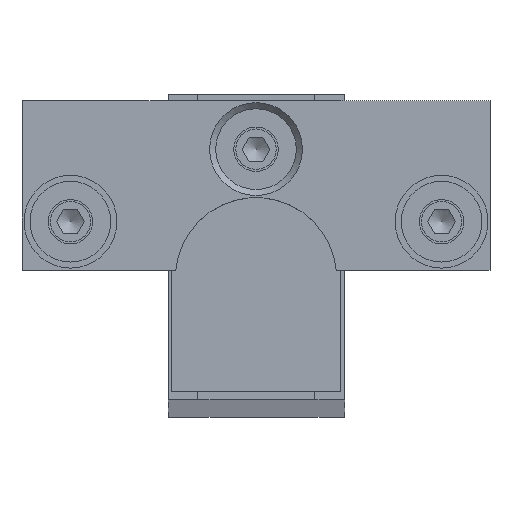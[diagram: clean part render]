
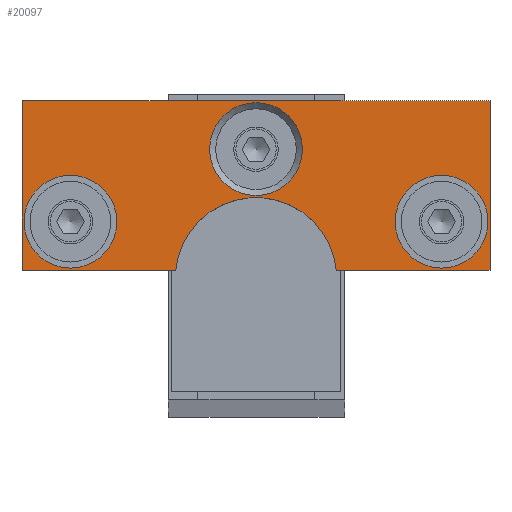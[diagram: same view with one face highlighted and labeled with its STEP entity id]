
A CAD part, top view. The second image highlights one B-rep face of the part: STEP entity #20097.
In plain terms, the highlighted planar face has unit normal (0, 0, 1).
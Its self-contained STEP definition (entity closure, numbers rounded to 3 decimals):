
#279=FACE_BOUND('',#2651,.T.);
#280=FACE_BOUND('',#2652,.T.);
#281=FACE_BOUND('',#2653,.T.);
#571=PLANE('',#21704);
#1470=FACE_OUTER_BOUND('',#2650,.T.);
#2650=EDGE_LOOP('',(#13902,#13903,#13904,#13905,#13906,#13907));
#2651=EDGE_LOOP('',(#13908));
#2652=EDGE_LOOP('',(#13909));
#2653=EDGE_LOOP('',(#13910));
#4167=LINE('',#34144,#4975);
#4168=LINE('',#34146,#4976);
#4169=LINE('',#34148,#4977);
#4170=LINE('',#34152,#4978);
#4171=LINE('',#34153,#4979);
#4975=VECTOR('',#25478,10.);
#4976=VECTOR('',#25479,10.);
#4977=VECTOR('',#25480,10.);
#4978=VECTOR('',#25483,10.);
#4979=VECTOR('',#25484,10.);
#5951=CIRCLE('',#21702,5.75);
#5953=CIRCLE('',#21705,10.);
#5954=CIRCLE('',#21706,5.75);
#5955=CIRCLE('',#21707,5.75);
#7915=VERTEX_POINT('',#34136);
#7917=VERTEX_POINT('',#34142);
#7918=VERTEX_POINT('',#34143);
#7919=VERTEX_POINT('',#34145);
#7920=VERTEX_POINT('',#34147);
#7921=VERTEX_POINT('',#34149);
#7922=VERTEX_POINT('',#34151);
#7923=VERTEX_POINT('',#34154);
#7924=VERTEX_POINT('',#34156);
#10286=EDGE_CURVE('',#7915,#7915,#5951,.T.);
#10289=EDGE_CURVE('',#7917,#7918,#4167,.T.);
#10290=EDGE_CURVE('',#7918,#7919,#4168,.T.);
#10291=EDGE_CURVE('',#7919,#7920,#4169,.T.);
#10292=EDGE_CURVE('',#7920,#7921,#5953,.T.);
#10293=EDGE_CURVE('',#7921,#7922,#4170,.T.);
#10294=EDGE_CURVE('',#7922,#7917,#4171,.T.);
#10295=EDGE_CURVE('',#7923,#7923,#5954,.T.);
#10296=EDGE_CURVE('',#7924,#7924,#5955,.T.);
#13902=ORIENTED_EDGE('',*,*,#10289,.T.);
#13903=ORIENTED_EDGE('',*,*,#10290,.T.);
#13904=ORIENTED_EDGE('',*,*,#10291,.T.);
#13905=ORIENTED_EDGE('',*,*,#10292,.T.);
#13906=ORIENTED_EDGE('',*,*,#10293,.T.);
#13907=ORIENTED_EDGE('',*,*,#10294,.T.);
#13908=ORIENTED_EDGE('',*,*,#10295,.F.);
#13909=ORIENTED_EDGE('',*,*,#10296,.F.);
#13910=ORIENTED_EDGE('',*,*,#10286,.F.);
#20097=ADVANCED_FACE('',(#1470,#279,#280,#281),#571,.T.);
#21702=AXIS2_PLACEMENT_3D('',#34137,#25471,#25472);
#21704=AXIS2_PLACEMENT_3D('',#34141,#25476,#25477);
#21705=AXIS2_PLACEMENT_3D('',#34150,#25481,#25482);
#21706=AXIS2_PLACEMENT_3D('',#34155,#25485,#25486);
#21707=AXIS2_PLACEMENT_3D('',#34157,#25487,#25488);
#25471=DIRECTION('center_axis',(0.,0.,
1.));
#25472=DIRECTION('ref_axis',(-1.,0.,0.));
#25476=DIRECTION('center_axis',(0.,0.,
1.));
#25477=DIRECTION('ref_axis',(1.,0.,0.));
#25478=DIRECTION('',(-1.,0.,0.));
#25479=DIRECTION('',(0.,-1.,0.));
#25480=DIRECTION('',(1.,0.,0.));
#25481=DIRECTION('center_axis',(0.,0.,
-1.));
#25482=DIRECTION('ref_axis',(0.995,0.1,0.));
#25483=DIRECTION('',(1.,0.,0.));
#25484=DIRECTION('',(0.,1.,0.));
#25485=DIRECTION('center_axis',(0.,0.,
1.));
#25486=DIRECTION('ref_axis',(-1.,0.,0.));
#25487=DIRECTION('center_axis',(0.,0.,
1.));
#25488=DIRECTION('ref_axis',(-1.,0.,0.));
#34136=CARTESIAN_POINT('',(39.65,22.,356.));
#34137=CARTESIAN_POINT('Origin',(33.9,22.,356.));
#34141=CARTESIAN_POINT('Origin',(10.9,27.153,356.));
#34142=CARTESIAN_POINT('',(39.9,37.,356.));
#34143=CARTESIAN_POINT('',(-18.1,37.,356.));
#34144=CARTESIAN_POINT('',(-18.1,37.,356.));
#34145=CARTESIAN_POINT('',(-18.1,16.,356.));
#34146=CARTESIAN_POINT('',(-18.1,16.,356.));
#34147=CARTESIAN_POINT('',(0.95,16.,356.));
#34148=CARTESIAN_POINT('',(0.95,16.,356.));
#34149=CARTESIAN_POINT('',(20.85,16.,356.));
#34150=CARTESIAN_POINT('Origin',(10.9,15.,356.));
#34151=CARTESIAN_POINT('',(39.9,16.,356.));
#34152=CARTESIAN_POINT('',(39.9,16.,356.));
#34153=CARTESIAN_POINT('',(39.9,37.,356.));
#34154=CARTESIAN_POINT('',(16.65,31.,356.));
#34155=CARTESIAN_POINT('Origin',(10.9,31.,356.));
#34156=CARTESIAN_POINT('',(-6.35,22.,356.));
#34157=CARTESIAN_POINT('Origin',(-12.1,22.,356.));
